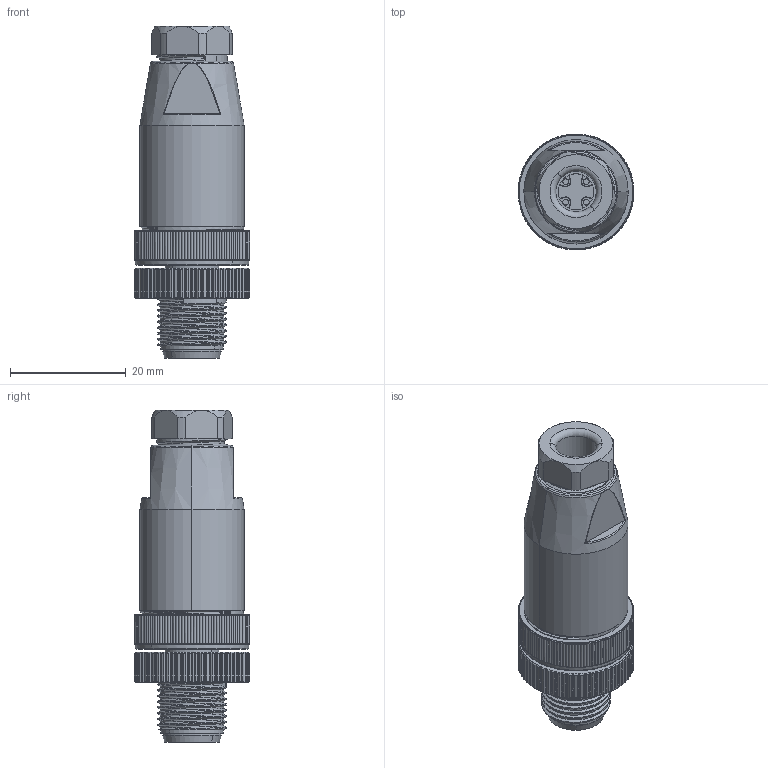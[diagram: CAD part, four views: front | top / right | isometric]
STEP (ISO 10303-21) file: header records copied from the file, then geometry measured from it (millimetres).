
FILE_DESCRIPTION((''),'2;1');
FILE_NAME('XC-M12-WK-PG7','2025-06-20T16:42:25',('lyj'),(''),'CREO PARAMETRIC BY PTC INC, 2019010','CREO PARAMETRIC BY PTC INC, 2019010','');
FILE_SCHEMA(('CONFIG_CONTROL_DESIGN'));
Products named in the file (1): XC-M12-WK-PG7
Bounding box: 20 x 20 x 57.31 mm (x, y, z)
Volume: 7825.2 mm3; surface area: 11147.3 mm2
Topology: 1 solids, 13 shells, 1442 faces, 3850 edges, 2467 vertices
Faces by surface type: cylinder 612, cone 397, plane 330, bspline 57, extrusion 28, torus 10, sphere 8
Entity records: 72691 total; most frequent: CARTESIAN_POINT 38554, ORIENTED_EDGE 7684, DIRECTION 6434, EDGE_CURVE 3842, AXIS2_PLACEMENT_3D 2580, VERTEX_POINT 2467, EDGE_LOOP 1519, FACE_OUTER_BOUND 1442
